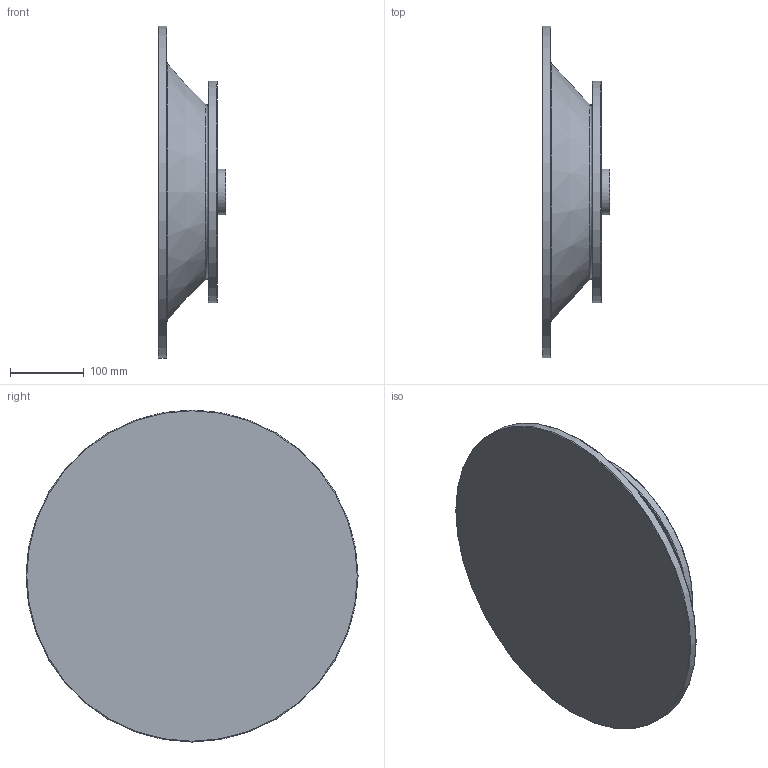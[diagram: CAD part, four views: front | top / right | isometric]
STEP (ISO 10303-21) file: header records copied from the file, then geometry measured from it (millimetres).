
FILE_DESCRIPTION((''),'2;1');
FILE_NAME('C:\Users\oem\Desktop\PAWEŁ\12 PRYWATNE\DualSystem\001 Modele\DKAB120_\DK_120_STEP\132_B5_L80.stp','2011-12-14T16:18:16',('oem'),(''),'Autodesk Inventor 2009','Autodesk Inventor 2009','');
FILE_SCHEMA(('AUTOMOTIVE_DESIGN { 1 0 10303 214 1 1 1 1 }'));
Length unit declared in the file: millimetre
Products named in the file (1): 132_B5_L80
Bounding box: 92 x 450 x 450 mm (x, y, z)
Volume: 2896092.2 mm3; surface area: 574845.6 mm2
Topology: 1 solids, 1 shells, 30 faces, 58 edges, 36 vertices
Faces by surface type: plane 11, cylinder 6, bspline 6, torus 5, cone 2
Full cylindrical faces by diameter (mm): 62 x1, 212.413 x1, 230 x1, 300 x1, 450 x1
Entity records: 895 total; most frequent: CARTESIAN_POINT 281, DIRECTION 120, ORIENTED_EDGE 80, EDGE_LOOP 62, AXIS2_PLACEMENT_3D 55, EDGE_CURVE 40, VERTEX_POINT 36, FACE_BOUND 32
